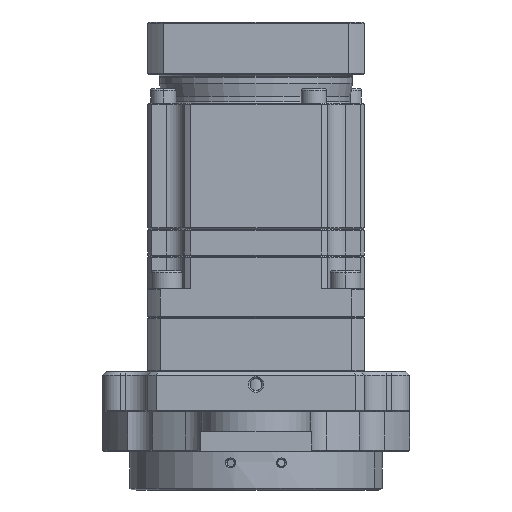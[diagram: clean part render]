
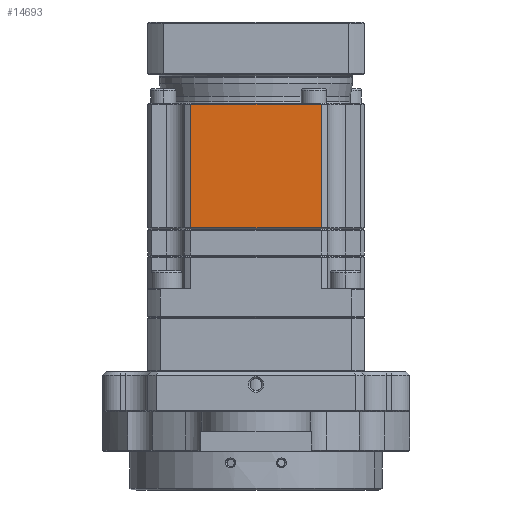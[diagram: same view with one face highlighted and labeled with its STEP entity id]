
A CAD part, front view. The second image highlights one B-rep face of the part: STEP entity #14693.
In plain terms, the highlighted planar face has unit normal (0, -1, 0).
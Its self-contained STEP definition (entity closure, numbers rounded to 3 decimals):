
#308 = VECTOR ( 'NONE', #29510, 1000. ) ;
#1326 = LINE ( 'NONE', #30615, #16329 ) ;
#1950 = FACE_OUTER_BOUND ( 'NONE', #12107, .T. ) ;
#1974 = VECTOR ( 'NONE', #2317, 1000. ) ;
#2317 = DIRECTION ( 'NONE',  ( -1., 0., 0. ) ) ;
#4503 = CARTESIAN_POINT ( 'NONE',  ( 18.028, -76.5, 74. ) ) ;
#5549 = CARTESIAN_POINT ( 'NONE',  ( 17.438, -76.5, 39.8 ) ) ;
#5712 = ORIENTED_EDGE ( 'NONE', *, *, #16988, .T. ) ;
#6755 = VERTEX_POINT ( 'NONE', #17940 ) ;
#6780 = CARTESIAN_POINT ( 'NONE',  ( 18.028, -76.5, 39.8 ) ) ;
#8742 = DIRECTION ( 'NONE',  ( 1., 0., 0. ) ) ;
#12107 = EDGE_LOOP ( 'NONE', ( #34469, #23953, #34855, #5712 ) ) ;
#12658 = DIRECTION ( 'NONE',  ( 0., -1., 0. ) ) ;
#12828 = PLANE ( 'NONE',  #28181 ) ;
#14693 = ADVANCED_FACE ( 'NONE', ( #1950 ), #12828, .T. ) ;
#15160 = DIRECTION ( 'NONE',  ( 1., 0., 0. ) ) ;
#15517 = CARTESIAN_POINT ( 'NONE',  ( -19.749, -76.5, -5.7 ) ) ;
#16329 = VECTOR ( 'NONE', #17040, 1000. ) ;
#16988 = EDGE_CURVE ( 'NONE', #34863, #6755, #21250, .T. ) ;
#17040 = DIRECTION ( 'NONE',  ( 0., 0., -1. ) ) ;
#17768 = EDGE_CURVE ( 'NONE', #27694, #34863, #23988, .T. ) ;
#17940 = CARTESIAN_POINT ( 'NONE',  ( -18.028, -76.5, 74. ) ) ;
#18641 = CARTESIAN_POINT ( 'NONE',  ( 18.028, -76.5, 39.5 ) ) ;
#21192 = VERTEX_POINT ( 'NONE', #22778 ) ;
#21250 = LINE ( 'NONE', #32135, #1974 ) ;
#22778 = CARTESIAN_POINT ( 'NONE',  ( -18.028, -76.5, 39.8 ) ) ;
#23953 = ORIENTED_EDGE ( 'NONE', *, *, #35154, .T. ) ;
#23988 = LINE ( 'NONE', #18641, #308 ) ;
#27000 = LINE ( 'NONE', #5549, #27777 ) ;
#27694 = VERTEX_POINT ( 'NONE', #6780 ) ;
#27777 = VECTOR ( 'NONE', #8742, 1000. ) ;
#28181 = AXIS2_PLACEMENT_3D ( 'NONE', #15517, #12658, #15160 ) ;
#29510 = DIRECTION ( 'NONE',  ( 0., 0., 1. ) ) ;
#30615 = CARTESIAN_POINT ( 'NONE',  ( -18.028, -76.5, 39.5 ) ) ;
#32135 = CARTESIAN_POINT ( 'NONE',  ( -17.438, -76.5, 74. ) ) ;
#32435 = EDGE_CURVE ( 'NONE', #6755, #21192, #1326, .T. ) ;
#34469 = ORIENTED_EDGE ( 'NONE', *, *, #32435, .T. ) ;
#34855 = ORIENTED_EDGE ( 'NONE', *, *, #17768, .T. ) ;
#34863 = VERTEX_POINT ( 'NONE', #4503 ) ;
#35154 = EDGE_CURVE ( 'NONE', #21192, #27694, #27000, .T. ) ;
